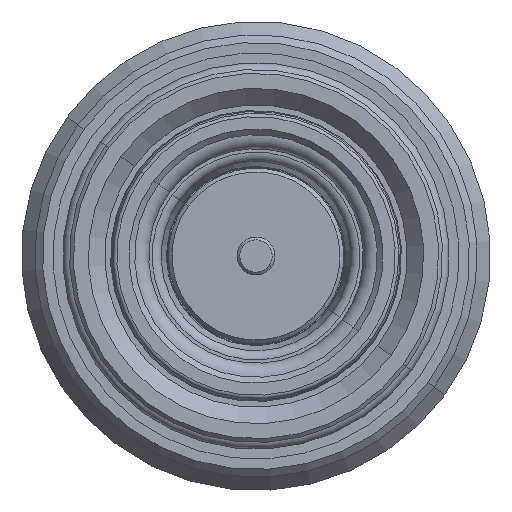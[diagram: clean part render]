
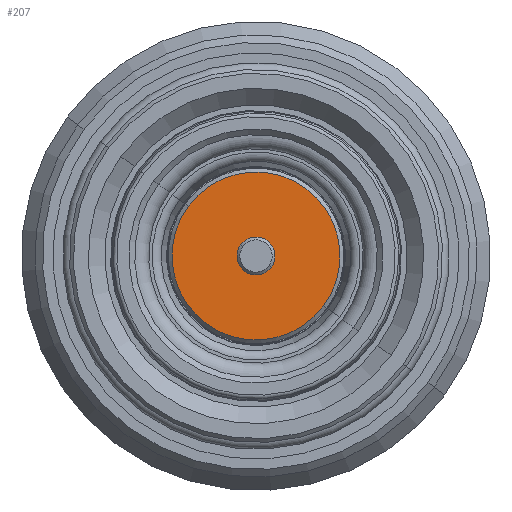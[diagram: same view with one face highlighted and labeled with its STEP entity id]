
A CAD part, left-side view. The second image highlights one B-rep face of the part: STEP entity #207.
In plain terms, the highlighted planar face has unit normal (-1, 0, 0) as drawn and (1, 0, 0) by its records, which use the part's own axes.
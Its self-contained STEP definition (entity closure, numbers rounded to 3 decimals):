
#128 = DIRECTION ( 'NONE',  ( 0., 0., 1. ) ) ;
#207 = ADVANCED_FACE ( 'NONE', ( #2586, #2533 ), #2520, .T. ) ;
#392 = VERTEX_POINT ( 'NONE', #3914 ) ;
#407 = VERTEX_POINT ( 'NONE', #3957 ) ;
#428 = VERTEX_POINT ( 'NONE', #3931 ) ;
#509 = ORIENTED_EDGE ( 'NONE', *, *, #1862, .T. ) ;
#522 = ORIENTED_EDGE ( 'NONE', *, *, #1853, .F. ) ;
#550 = ORIENTED_EDGE ( 'NONE', *, *, #1859, .F. ) ;
#569 = ORIENTED_EDGE ( 'NONE', *, *, #977, .T. ) ;
#773 = EDGE_LOOP ( 'NONE', ( #569, #509 ) ) ;
#835 = EDGE_LOOP ( 'NONE', ( #522, #550 ) ) ;
#977 = EDGE_CURVE ( 'NONE', #428, #392, #2894, .T. ) ;
#1264 = VERTEX_POINT ( 'NONE', #5618 ) ;
#1853 = EDGE_CURVE ( 'NONE', #407, #1264, #3291, .T. ) ;
#1859 = EDGE_CURVE ( 'NONE', #1264, #407, #3302, .T. ) ;
#1862 = EDGE_CURVE ( 'NONE', #392, #428, #3296, .T. ) ;
#2041 = AXIS2_PLACEMENT_3D ( 'NONE', #2501, #2525, #2509 ) ;
#2501 = CARTESIAN_POINT ( 'NONE',  ( 20.069, 0., 0. ) ) ;
#2509 = DIRECTION ( 'NONE',  ( 0., 0., -1. ) ) ;
#2520 = PLANE ( 'NONE',  #2041 ) ;
#2525 = DIRECTION ( 'NONE',  ( 1., 0., 0. ) ) ;
#2533 = FACE_OUTER_BOUND ( 'NONE', #835, .T. ) ;
#2586 = FACE_BOUND ( 'NONE', #773, .T. ) ;
#2894 = CIRCLE ( 'NONE', #4157, 1. ) ;
#3291 = CIRCLE ( 'NONE', #5919, 4.42 ) ;
#3296 = CIRCLE ( 'NONE', #5863, 1. ) ;
#3302 = CIRCLE ( 'NONE', #5896, 4.42 ) ;
#3861 = CARTESIAN_POINT ( 'NONE',  ( 20.069, 0., 0. ) ) ;
#3888 = DIRECTION ( 'NONE',  ( -1., 0., 0. ) ) ;
#3914 = CARTESIAN_POINT ( 'NONE',  ( 20.069, 0., -1. ) ) ;
#3931 = CARTESIAN_POINT ( 'NONE',  ( 20.069, 0., 1. ) ) ;
#3957 = CARTESIAN_POINT ( 'NONE',  ( 20.069, 0., 4.42 ) ) ;
#4157 = AXIS2_PLACEMENT_3D ( 'NONE', #3861, #3888, #128 ) ;
#5618 = CARTESIAN_POINT ( 'NONE',  ( 20.069, 0., -4.42 ) ) ;
#5845 = DIRECTION ( 'NONE',  ( -1., 0., 0. ) ) ;
#5847 = CARTESIAN_POINT ( 'NONE',  ( 20.069, 0., 0. ) ) ;
#5848 = DIRECTION ( 'NONE',  ( 0., 0., 1. ) ) ;
#5863 = AXIS2_PLACEMENT_3D ( 'NONE', #6003, #6008, #5996 ) ;
#5896 = AXIS2_PLACEMENT_3D ( 'NONE', #5988, #5992, #5995 ) ;
#5919 = AXIS2_PLACEMENT_3D ( 'NONE', #5847, #5845, #5848 ) ;
#5988 = CARTESIAN_POINT ( 'NONE',  ( 20.069, 0., 0. ) ) ;
#5992 = DIRECTION ( 'NONE',  ( -1., 0., 0. ) ) ;
#5995 = DIRECTION ( 'NONE',  ( 0., 0., 1. ) ) ;
#5996 = DIRECTION ( 'NONE',  ( 0., 0., 1. ) ) ;
#6003 = CARTESIAN_POINT ( 'NONE',  ( 20.069, 0., 0. ) ) ;
#6008 = DIRECTION ( 'NONE',  ( -1., 0., 0. ) ) ;
